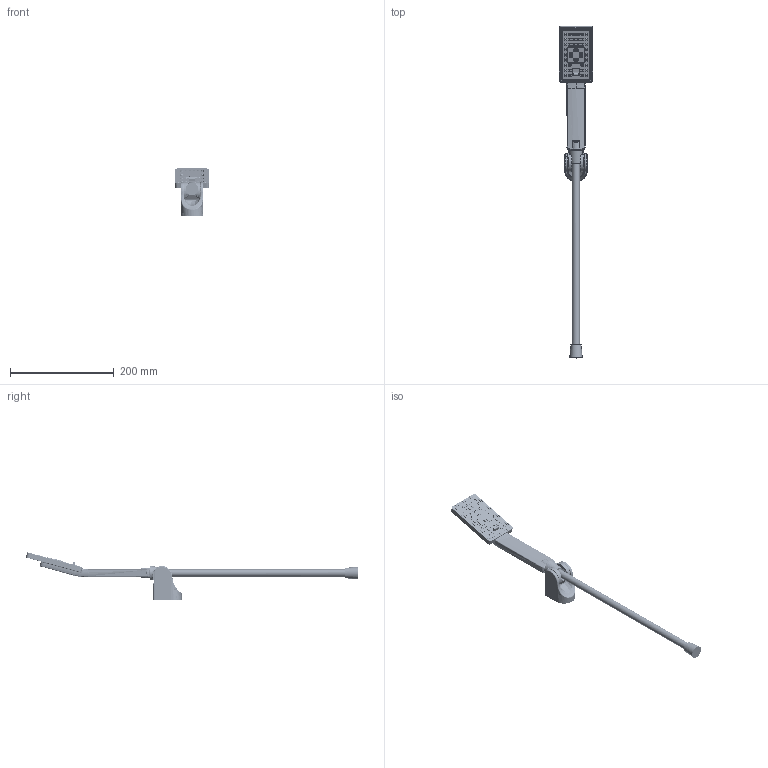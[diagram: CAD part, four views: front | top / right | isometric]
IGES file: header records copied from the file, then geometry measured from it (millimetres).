
Global section: file name: 5902539821703_igs; native system: Autodesk Inventor 2020; preprocessor: unknown; date: 20200727.140550; units: millimetre
Bounding box: 65 x 638.67 x 90.67 mm (x, y, z)
Surface area: 162215.2 mm2 (no closed solid volume)
Topology: 0 solids, 0 shells, 5562 faces, 41223 edges, 41111 vertices
Faces by surface type: revolution 3376, bspline 2186
